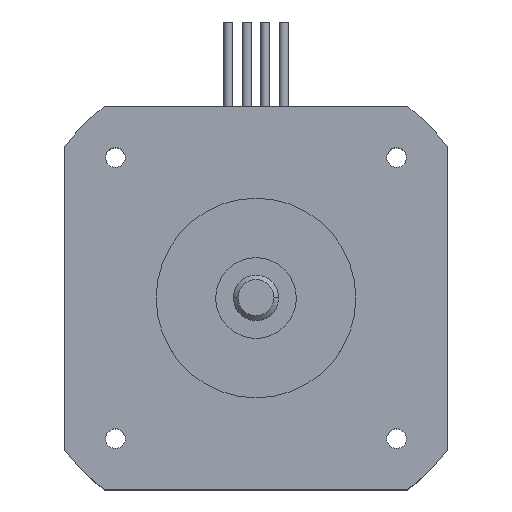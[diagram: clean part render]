
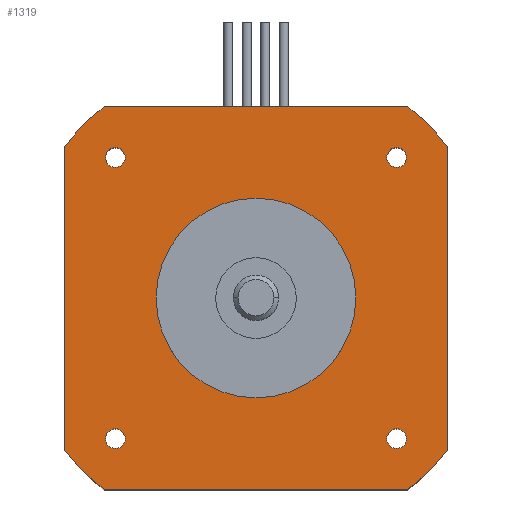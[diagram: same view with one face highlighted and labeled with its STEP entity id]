
A CAD part, top view. The second image highlights one B-rep face of the part: STEP entity #1319.
In plain terms, the highlighted planar face has unit normal (0, 0, 1).
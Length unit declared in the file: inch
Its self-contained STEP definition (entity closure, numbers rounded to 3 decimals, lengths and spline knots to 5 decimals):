
#237=CARTESIAN_POINT('',(-0.653,0.61,1.57));
#238=VERTEX_POINT('',#237);
#254=CARTESIAN_POINT('',(-0.567,0.61,1.57));
#255=VERTEX_POINT('',#254);
#262=CARTESIAN_POINT('',(-0.61,0.61,1.57));
#263=DIRECTION('',(0.0,0.0,-1.0));
#264=DIRECTION('',(-1.0,0.0,0.0));
#265=AXIS2_PLACEMENT_3D('',#262,#263,#264);
#266=CIRCLE('',#265,0.043);
#267=EDGE_CURVE('',#238,#255,#266,.T.);
#279=CARTESIAN_POINT('',(0.61,0.653,1.57));
#280=VERTEX_POINT('',#279);
#296=CARTESIAN_POINT('',(0.61,0.567,1.57));
#297=VERTEX_POINT('',#296);
#304=CARTESIAN_POINT('',(0.61,0.61,1.57));
#305=DIRECTION('',(0.0,0.0,-1.0));
#306=DIRECTION('',(0.0,1.0,0.0));
#307=AXIS2_PLACEMENT_3D('',#304,#305,#306);
#308=CIRCLE('',#307,0.043);
#309=EDGE_CURVE('',#280,#297,#308,.T.);
#321=CARTESIAN_POINT('',(-0.61,-0.653,1.57));
#322=VERTEX_POINT('',#321);
#338=CARTESIAN_POINT('',(-0.61,-0.567,1.57));
#339=VERTEX_POINT('',#338);
#346=CARTESIAN_POINT('',(-0.61,-0.61,1.57));
#347=DIRECTION('',(0.0,0.0,-1.0));
#348=DIRECTION('',(0.0,-1.0,0.0));
#349=AXIS2_PLACEMENT_3D('',#346,#347,#348);
#350=CIRCLE('',#349,0.043);
#351=EDGE_CURVE('',#322,#339,#350,.T.);
#363=CARTESIAN_POINT('',(0.653,-0.61,1.57));
#364=VERTEX_POINT('',#363);
#380=CARTESIAN_POINT('',(0.567,-0.61,1.57));
#381=VERTEX_POINT('',#380);
#388=CARTESIAN_POINT('',(0.61,-0.61,1.57));
#389=DIRECTION('',(0.0,0.0,-1.0));
#390=DIRECTION('',(1.0,0.0,0.0));
#391=AXIS2_PLACEMENT_3D('',#388,#389,#390);
#392=CIRCLE('',#391,0.043);
#393=EDGE_CURVE('',#364,#381,#392,.T.);
#403=CARTESIAN_POINT('',(-0.433,0.,1.57));
#404=VERTEX_POINT('',#403);
#413=CARTESIAN_POINT('',(0.433,0.,1.57));
#414=VERTEX_POINT('',#413);
#415=CARTESIAN_POINT('',(0.0,0.0,1.57));
#416=DIRECTION('',(0.0,0.0,-1.0));
#417=DIRECTION('',(-1.0,0.0,0.0));
#418=AXIS2_PLACEMENT_3D('',#415,#416,#417);
#419=CIRCLE('',#418,0.433);
#420=EDGE_CURVE('',#414,#404,#419,.T.);
#917=CARTESIAN_POINT('',(-0.83,0.65932,1.57));
#918=VERTEX_POINT('',#917);
#927=CARTESIAN_POINT('',(-0.65932,0.83,1.57));
#928=VERTEX_POINT('',#927);
#929=CARTESIAN_POINT('',(0.0,0.0,1.57));
#930=DIRECTION('',(0.0,0.0,1.0));
#931=DIRECTION('',(1.0,0.0,0.0));
#932=AXIS2_PLACEMENT_3D('',#929,#930,#931);
#933=CIRCLE('',#932,1.06);
#934=EDGE_CURVE('',#928,#918,#933,.T.);
#959=CARTESIAN_POINT('',(0.65932,0.83,1.57));
#960=VERTEX_POINT('',#959);
#969=CARTESIAN_POINT('',(0.83,0.65932,1.57));
#970=VERTEX_POINT('',#969);
#971=CARTESIAN_POINT('',(0.0,0.0,1.57));
#972=DIRECTION('',(0.0,0.0,1.0));
#973=DIRECTION('',(1.0,0.0,0.0));
#974=AXIS2_PLACEMENT_3D('',#971,#972,#973);
#975=CIRCLE('',#974,1.06);
#976=EDGE_CURVE('',#970,#960,#975,.T.);
#1001=CARTESIAN_POINT('',(0.83,-0.65932,1.57));
#1002=VERTEX_POINT('',#1001);
#1011=CARTESIAN_POINT('',(0.65932,-0.83,1.57));
#1012=VERTEX_POINT('',#1011);
#1013=CARTESIAN_POINT('',(0.0,0.0,1.57));
#1014=DIRECTION('',(0.0,0.0,1.0));
#1015=DIRECTION('',(1.0,0.0,0.0));
#1016=AXIS2_PLACEMENT_3D('',#1013,#1014,#1015);
#1017=CIRCLE('',#1016,1.06);
#1018=EDGE_CURVE('',#1012,#1002,#1017,.T.);
#1043=CARTESIAN_POINT('',(-0.65932,-0.83,1.57));
#1044=VERTEX_POINT('',#1043);
#1053=CARTESIAN_POINT('',(-0.83,-0.65932,1.57));
#1054=VERTEX_POINT('',#1053);
#1055=CARTESIAN_POINT('',(0.0,0.0,1.57));
#1056=DIRECTION('',(0.0,0.0,1.0));
#1057=DIRECTION('',(1.0,0.0,0.0));
#1058=AXIS2_PLACEMENT_3D('',#1055,#1056,#1057);
#1059=CIRCLE('',#1058,1.06);
#1060=EDGE_CURVE('',#1054,#1044,#1059,.T.);
#1172=CARTESIAN_POINT('',(-0.83,0.65932,1.57));
#1173=DIRECTION('',(0.0,-1.0,0.0));
#1174=VECTOR('',#1173,1.31864);
#1175=LINE('',#1172,#1174);
#1176=EDGE_CURVE('',#918,#1054,#1175,.T.);
#1221=CARTESIAN_POINT('',(0.0,0.0,1.57));
#1222=DIRECTION('',(0.0,0.0,-1.0));
#1223=DIRECTION('',(-1.0,0.0,0.0));
#1224=AXIS2_PLACEMENT_3D('',#1221,#1222,#1223);
#1225=CIRCLE('',#1224,0.433);
#1226=EDGE_CURVE('',#404,#414,#1225,.T.);
#1245=CARTESIAN_POINT('',(0.0,0.0,1.57));
#1246=DIRECTION('',(0.0,0.0,1.0));
#1247=DIRECTION('',(1.0,0.0,0.0));
#1248=AXIS2_PLACEMENT_3D('',#1245,#1246,#1247);
#1249=PLANE('',#1248);
#1250=ORIENTED_EDGE('',*,*,#1060,.T.);
#1251=CARTESIAN_POINT('',(-0.65932,-0.83,1.57));
#1252=DIRECTION('',(1.0,0.0,0.0));
#1253=VECTOR('',#1252,1.31864);
#1254=LINE('',#1251,#1253);
#1255=EDGE_CURVE('',#1044,#1012,#1254,.T.);
#1256=ORIENTED_EDGE('',*,*,#1255,.T.);
#1257=ORIENTED_EDGE('',*,*,#1018,.T.);
#1258=CARTESIAN_POINT('',(0.83,-0.65932,1.57));
#1259=DIRECTION('',(0.0,1.0,0.0));
#1260=VECTOR('',#1259,1.31864);
#1261=LINE('',#1258,#1260);
#1262=EDGE_CURVE('',#1002,#970,#1261,.T.);
#1263=ORIENTED_EDGE('',*,*,#1262,.T.);
#1264=ORIENTED_EDGE('',*,*,#976,.T.);
#1265=CARTESIAN_POINT('',(0.65932,0.83,1.57));
#1266=DIRECTION('',(-1.0,0.0,0.0));
#1267=VECTOR('',#1266,1.31864);
#1268=LINE('',#1265,#1267);
#1269=EDGE_CURVE('',#960,#928,#1268,.T.);
#1270=ORIENTED_EDGE('',*,*,#1269,.T.);
#1271=ORIENTED_EDGE('',*,*,#934,.T.);
#1272=ORIENTED_EDGE('',*,*,#1176,.T.);
#1273=EDGE_LOOP('',(#1250,#1256,#1257,#1263,#1264,#1270,#1271,#1272));
#1274=FACE_OUTER_BOUND('',#1273,.T.);
#1275=CARTESIAN_POINT('',(-0.61,0.61,1.57));
#1276=DIRECTION('',(0.0,0.0,-1.0));
#1277=DIRECTION('',(-1.0,0.0,0.0));
#1278=AXIS2_PLACEMENT_3D('',#1275,#1276,#1277);
#1279=CIRCLE('',#1278,0.043);
#1280=EDGE_CURVE('',#255,#238,#1279,.T.);
#1281=ORIENTED_EDGE('',*,*,#1280,.T.);
#1282=ORIENTED_EDGE('',*,*,#267,.T.);
#1283=EDGE_LOOP('',(#1281,#1282));
#1284=FACE_BOUND('',#1283,.T.);
#1285=CARTESIAN_POINT('',(0.61,0.61,1.57));
#1286=DIRECTION('',(0.0,0.0,-1.0));
#1287=DIRECTION('',(0.0,1.0,0.0));
#1288=AXIS2_PLACEMENT_3D('',#1285,#1286,#1287);
#1289=CIRCLE('',#1288,0.043);
#1290=EDGE_CURVE('',#297,#280,#1289,.T.);
#1291=ORIENTED_EDGE('',*,*,#1290,.T.);
#1292=ORIENTED_EDGE('',*,*,#309,.T.);
#1293=EDGE_LOOP('',(#1291,#1292));
#1294=FACE_BOUND('',#1293,.T.);
#1295=CARTESIAN_POINT('',(-0.61,-0.61,1.57));
#1296=DIRECTION('',(0.0,0.0,-1.0));
#1297=DIRECTION('',(0.0,-1.0,0.0));
#1298=AXIS2_PLACEMENT_3D('',#1295,#1296,#1297);
#1299=CIRCLE('',#1298,0.043);
#1300=EDGE_CURVE('',#339,#322,#1299,.T.);
#1301=ORIENTED_EDGE('',*,*,#1300,.T.);
#1302=ORIENTED_EDGE('',*,*,#351,.T.);
#1303=EDGE_LOOP('',(#1301,#1302));
#1304=FACE_BOUND('',#1303,.T.);
#1305=CARTESIAN_POINT('',(0.61,-0.61,1.57));
#1306=DIRECTION('',(0.0,0.0,-1.0));
#1307=DIRECTION('',(1.0,0.0,0.0));
#1308=AXIS2_PLACEMENT_3D('',#1305,#1306,#1307);
#1309=CIRCLE('',#1308,0.043);
#1310=EDGE_CURVE('',#381,#364,#1309,.T.);
#1311=ORIENTED_EDGE('',*,*,#1310,.T.);
#1312=ORIENTED_EDGE('',*,*,#393,.T.);
#1313=EDGE_LOOP('',(#1311,#1312));
#1314=FACE_BOUND('',#1313,.T.);
#1315=ORIENTED_EDGE('',*,*,#420,.T.);
#1316=ORIENTED_EDGE('',*,*,#1226,.T.);
#1317=EDGE_LOOP('',(#1315,#1316));
#1318=FACE_BOUND('',#1317,.T.);
#1319=ADVANCED_FACE('',(#1274,#1284,#1294,#1304,#1314,#1318),#1249,.T.);
